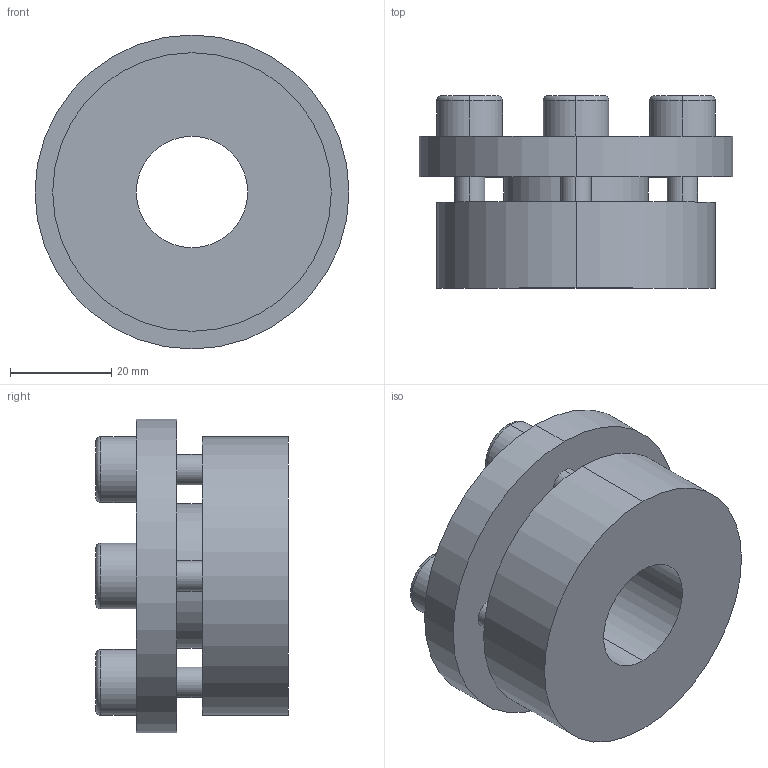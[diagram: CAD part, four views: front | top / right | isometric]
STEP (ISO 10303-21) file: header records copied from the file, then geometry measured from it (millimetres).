
FILE_DESCRIPTION (( 'STEP AP203' ), '1' );
FILE_NAME ('PL-H4 22-55.STEP', '2021-10-23T01:18:36', ( '' ), ( '' ), 'SwSTEP 2.0', 'SolidWorks 2018', '' );
FILE_SCHEMA (( 'CONFIG_CONTROL_DESIGN' ));
Length unit declared in the file: millimetre
Products named in the file (1): PL-H4 22-55
Bounding box: 62 x 38 x 62 mm (x, y, z)
Volume: 60630 mm3; surface area: 17481.4 mm2
Topology: 1 solids, 1 shells, 68 faces, 160 edges, 104 vertices
Faces by surface type: plane 36, cylinder 24, torus 8
Entity records: 2061 total; most frequent: DIRECTION 362, CARTESIAN_POINT 333, ORIENTED_EDGE 320, EDGE_CURVE 160, AXIS2_PLACEMENT_3D 133, VERTEX_POINT 104, VECTOR 96, LINE 96
